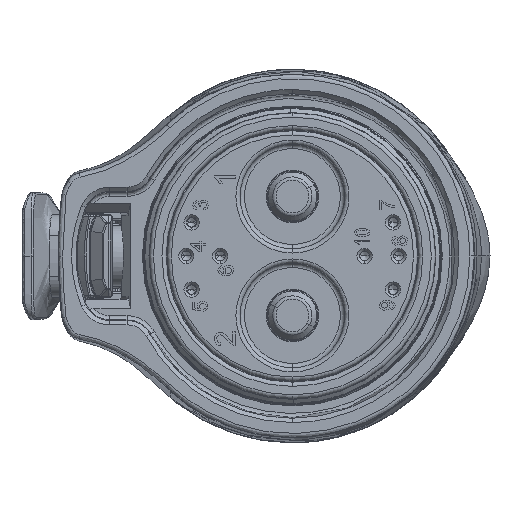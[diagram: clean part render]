
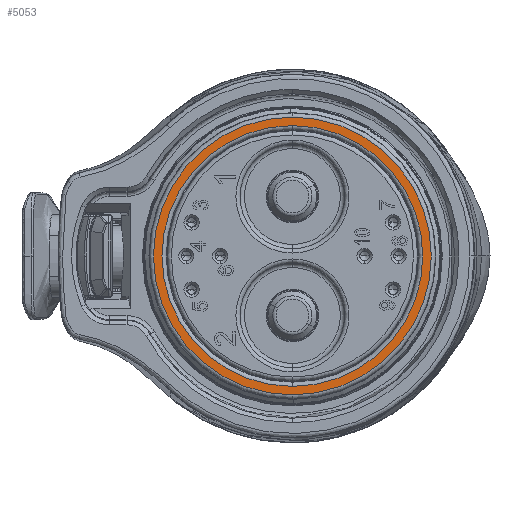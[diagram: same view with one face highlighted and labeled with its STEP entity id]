
A CAD part, left-side view. The second image highlights one B-rep face of the part: STEP entity #5053.
In plain terms, the highlighted planar face has unit normal (-1, 0, 0).
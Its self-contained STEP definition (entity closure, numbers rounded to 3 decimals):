
#1015 = FACE_OUTER_BOUND ( 'NONE', #65857, .T. ) ;
#2878 = CIRCLE ( 'NONE', #71832, 15.352 ) ;
#3188 = VERTEX_POINT ( 'NONE', #56377 ) ;
#4872 = AXIS2_PLACEMENT_3D ( 'NONE', #86320, #78300, #93870 ) ;
#5053 = ADVANCED_FACE ( 'NONE', ( #16628, #1015 ), #24661, .F. ) ;
#5223 = VERTEX_POINT ( 'NONE', #40223 ) ;
#6904 = ORIENTED_EDGE ( 'NONE', *, *, #78323, .T. ) ;
#9591 = DIRECTION ( 'NONE',  ( 0., 0., -1. ) ) ;
#10954 = AXIS2_PLACEMENT_3D ( 'NONE', #28441, #12886, #50513 ) ;
#12886 = DIRECTION ( 'NONE',  ( 1., 0., 0. ) ) ;
#13261 = DIRECTION ( 'NONE',  ( 0., 0., -1. ) ) ;
#16628 = FACE_BOUND ( 'NONE', #22384, .T. ) ;
#20782 = DIRECTION ( 'NONE',  ( 1., 0., 0. ) ) ;
#22384 = EDGE_LOOP ( 'NONE', ( #6904, #34873 ) ) ;
#24661 = PLANE ( 'NONE',  #64877 ) ;
#25643 = DIRECTION ( 'NONE',  ( 1., 0., 0. ) ) ;
#28441 = CARTESIAN_POINT ( 'NONE',  ( 0., 0., 0. ) ) ;
#31163 = DIRECTION ( 'NONE',  ( 0., 0., -1. ) ) ;
#31842 = CIRCLE ( 'NONE', #10954, 15.352 ) ;
#34291 = EDGE_CURVE ( 'NONE', #37058, #74008, #89978, .T. ) ;
#34873 = ORIENTED_EDGE ( 'NONE', *, *, #42189, .T. ) ;
#36905 = CIRCLE ( 'NONE', #4872, 16.353 ) ;
#37058 = VERTEX_POINT ( 'NONE', #65755 ) ;
#38379 = ORIENTED_EDGE ( 'NONE', *, *, #62780, .T. ) ;
#40223 = CARTESIAN_POINT ( 'NONE',  ( 0., 0., 15.352 ) ) ;
#42189 = EDGE_CURVE ( 'NONE', #5223, #3188, #2878, .T. ) ;
#45711 = CARTESIAN_POINT ( 'NONE',  ( 0., 0., 0. ) ) ;
#48674 = CARTESIAN_POINT ( 'NONE',  ( 0., 0., 16.353 ) ) ;
#50513 = DIRECTION ( 'NONE',  ( 0., 0., -1. ) ) ;
#56377 = CARTESIAN_POINT ( 'NONE',  ( 0., 0., -15.352 ) ) ;
#62780 = EDGE_CURVE ( 'NONE', #74008, #37058, #36905, .T. ) ;
#64877 = AXIS2_PLACEMENT_3D ( 'NONE', #94408, #25643, #9591 ) ;
#65755 = CARTESIAN_POINT ( 'NONE',  ( 0., 0., -16.353 ) ) ;
#65857 = EDGE_LOOP ( 'NONE', ( #89352, #38379 ) ) ;
#71832 = AXIS2_PLACEMENT_3D ( 'NONE', #96109, #20782, #13261 ) ;
#74008 = VERTEX_POINT ( 'NONE', #48674 ) ;
#78300 = DIRECTION ( 'NONE',  ( -1., 0., 0. ) ) ;
#78323 = EDGE_CURVE ( 'NONE', #3188, #5223, #31842, .T. ) ;
#86320 = CARTESIAN_POINT ( 'NONE',  ( 0., 0., 0. ) ) ;
#89352 = ORIENTED_EDGE ( 'NONE', *, *, #34291, .T. ) ;
#89978 = CIRCLE ( 'NONE', #94836, 16.353 ) ;
#93383 = DIRECTION ( 'NONE',  ( -1., 0., 0. ) ) ;
#93870 = DIRECTION ( 'NONE',  ( 0., 0., -1. ) ) ;
#94408 = CARTESIAN_POINT ( 'NONE',  ( 0., 14.85, 0. ) ) ;
#94836 = AXIS2_PLACEMENT_3D ( 'NONE', #45711, #93383, #31163 ) ;
#96109 = CARTESIAN_POINT ( 'NONE',  ( 0., 0., 0. ) ) ;
